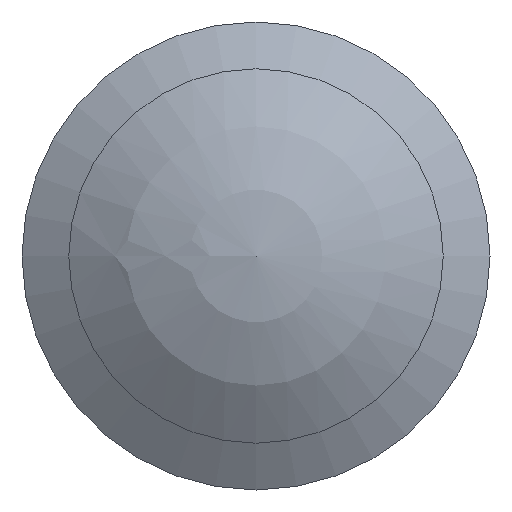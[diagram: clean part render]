
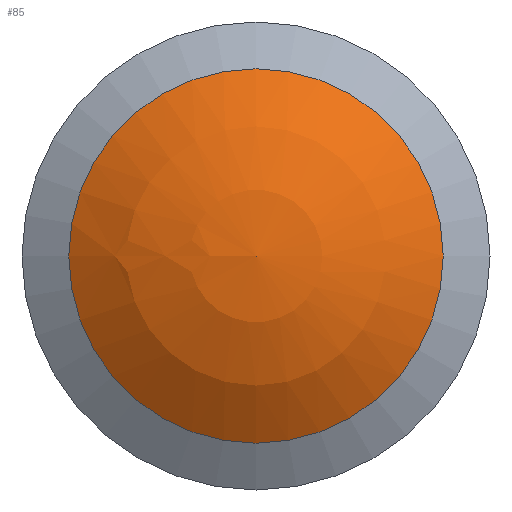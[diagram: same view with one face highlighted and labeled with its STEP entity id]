
A CAD part, front view. The second image highlights one B-rep face of the part: STEP entity #85.
In plain terms, the highlighted spherical face has radius 6.75 mm.
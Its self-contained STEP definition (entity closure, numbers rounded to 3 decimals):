
#85 = ADVANCED_FACE( '', ( #118, #119 ), #120, .T. );
#118 = FACE_BOUND( '', #156, .T. );
#119 = FACE_OUTER_BOUND( '', #157, .T. );
#120 = SPHERICAL_SURFACE( '', #158, 6.75 );
#156 = VERTEX_LOOP( '', #230 );
#157 = EDGE_LOOP( '', ( #231 ) );
#158 = AXIS2_PLACEMENT_3D( '', #232, #233, #234 );
#230 = VERTEX_POINT( '', #285 );
#231 = ORIENTED_EDGE( '', *, *, #284, .T. );
#232 = CARTESIAN_POINT( '', ( 0., 6.75, 0. ) );
#233 = DIRECTION( '', ( 0., -1., 0. ) );
#234 = DIRECTION( '', ( -1., 0., 0. ) );
#284 = EDGE_CURVE( '', #328, #328, #329, .T. );
#285 = CARTESIAN_POINT( '', ( 0., 0., 0. ) );
#328 = VERTEX_POINT( '', #387 );
#329 = CIRCLE( '', #388, 4. );
#387 = CARTESIAN_POINT( '', ( 0., 1.313, -4. ) );
#388 = AXIS2_PLACEMENT_3D( '', #428, #429, #430 );
#428 = CARTESIAN_POINT( '', ( 0., 1.313, 0. ) );
#429 = DIRECTION( '', ( 0., -1., 0. ) );
#430 = DIRECTION( '', ( 0., 0., -1. ) );
